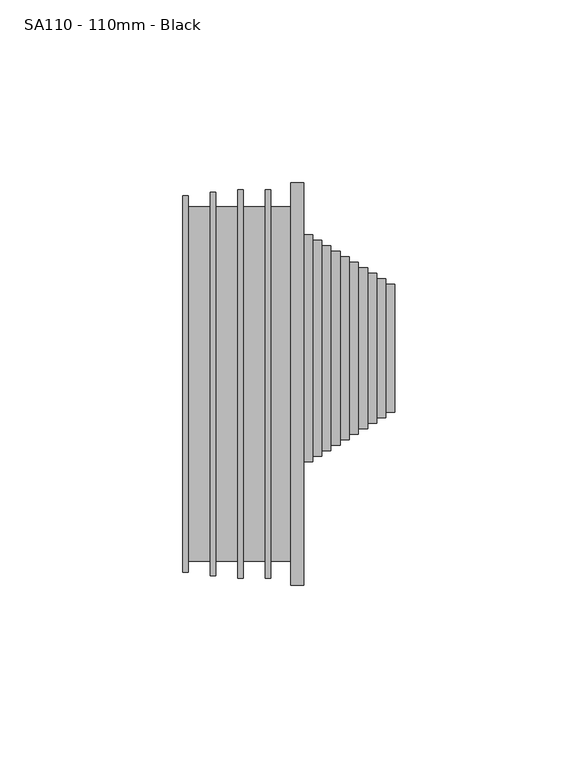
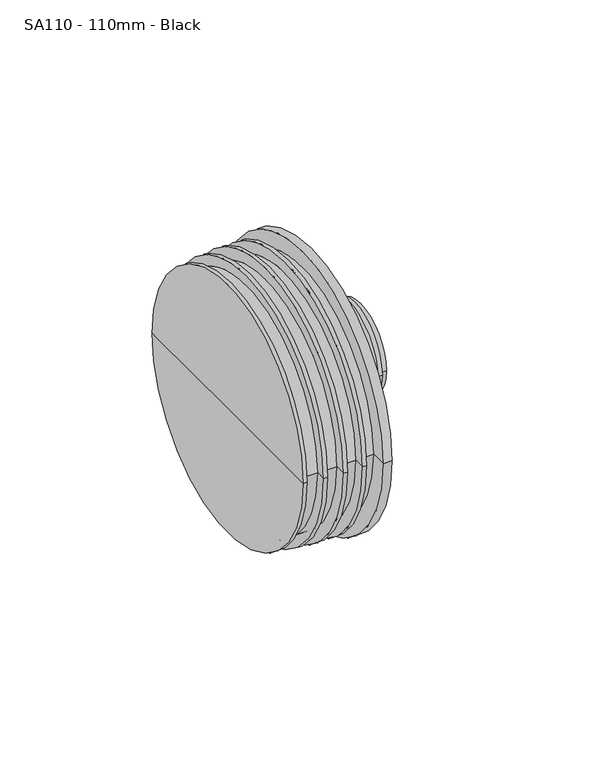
"""IFC4 building model written with IfcOpenShell, lengths in millimetres: pipe fitting geometry, MarleyPlumbingAndDrainage_PipeFitting_WasteDrainAdaptor : SA110 - 110mm - Black."""

from ifc_helpers import new_model, si_unit, frame, origin, place, context, project, spatial, circle_curve, source, transform, mapped, element, save
from ifc_brep_helpers import plane_surface, cylinder_surface, advanced_brep


def sa110_110mm_black_25943db1(model_context):
    return source(origin(), model_context, "Body", "AdvancedBrep", [
        advanced_brep(
        [(-44.3253818, 51.5, 0.0), (-44.3253818, -51.5, 0.0), (-44.3253818, -48.5, 0.0), (-44.3253818, 0.0, 0.0), (-44.3253818, 48.5, 0.0), (-20.3253818, -53.1, 0.0), (-20.3253818, 53.1, 0.0), (-20.3253818, 48.5, 0.0), (-20.3253818, -48.5, 0.0), (-21.8253818, -53.1, 0.0), (-21.8253818, 53.1, 0.0), (-21.8253818, -48.5, 0.0), (-21.8253818, 48.5, 0.0), (-27.8253818, -48.5, 0.0), (-27.8253818, 48.5, 0.0), (-27.8253818, -53.1, 0.0), (-27.8253818, 53.1, 0.0), (-29.3253818, -53.1, 0.0), (-29.3253818, 53.1, 0.0), (-29.3253818, -48.5, 0.0), (-29.3253818, 48.5, 0.0), (-35.3253818, -48.5, 0.0), (-35.3253818, 48.5, 0.0), (-35.3253818, -52.5, 0.0), (-35.3253818, 52.5, 0.0), (-36.8253818, -52.5, 0.0), (-36.8253818, 52.5, 0.0), (-36.8253818, -48.5, 0.0), (-36.8253818, 48.5, 0.0), (-42.8253818, -48.5, 0.0), (-42.8253818, 48.5, 0.0), (-42.8253818, -51.5, 0.0), (-42.8253818, 51.5, 0.0), (13.6746182, -7.75, 0.0), (13.6746182, 27.25, 0.0), (13.6746182, 9.75, 0.0), (11.1746182, -7.75, 0.0), (11.1746182, 27.25, 0.0), (11.1746182, -9.25, 0.0), (11.1746182, 28.75, 0.0), (8.6746182, -9.25, 0.0), (8.6746182, 28.75, 0.0), (8.6746182, -10.75, 0.0), (8.6746182, 30.25, 0.0), (6.1746182, -10.75, 0.0), (6.1746182, 30.25, 0.0), (6.1746182, -12.25, 0.0), (6.1746182, 31.75, 0.0), (3.6746182, -12.25, 0.0), (3.6746182, 31.75, 0.0), (3.6746182, -13.75, 0.0), (3.6746182, 33.25, 0.0), (1.1746182, -13.75, 0.0), (1.1746182, 33.25, 0.0), (1.1746182, -15.25, 0.0), (1.1746182, 34.75, 0.0), (-1.3253818, -15.25, 0.0), (-1.3253818, 34.75, 0.0), (-1.3253818, -16.75, 0.0), (-1.3253818, 36.25, 0.0), (-3.8253818, -16.75, 0.0), (-3.8253818, 36.25, 0.0), (-3.8253818, -18.25, 0.0), (-3.8253818, 37.75, 0.0), (-6.3253818, -18.25, 0.0), (-6.3253818, 37.75, 0.0), (-6.3253818, -19.79375, 0.0), (-6.3253818, 39.29375, 0.0), (-8.8253818, -19.79375, 0.0), (-8.8253818, 39.29375, 0.0), (-8.8253818, -21.25, 0.0), (-8.8253818, 40.75, 0.0), (-11.3253818, -21.25, 0.0), (-11.3253818, 40.75, 0.0), (-14.8253818, -55.0, 0.0), (-14.8253818, 55.0, 0.0), (-11.3253818, 55.0, 0.0), (-11.3253818, -55.0, 0.0), (-14.8253818, -48.5, 0.0), (-14.8253818, 48.5, 0.0)],
        [
            (0, 1, circle_curve(frame((-44.3253818, 0.0, 0.0), z_axis=(-1.0, 0.0, 0.0), x_axis=(0.0, 1.0, 0.0)), 51.5)),
            (1, 2),
            (2, 3),
            (3, 4),
            (4, 0),
            (1, 0, circle_curve(frame((-44.3253818, 0.0, 0.0), z_axis=(-1.0, 0.0, 0.0), x_axis=(0.0, 1.0, 0.0)), 51.5)),
            (5, 6, circle_curve(frame((-20.3253818, 0.0, 0.0), z_axis=(1.0, 0.0, 0.0), x_axis=(0.0, 1.0, 0.0)), 53.1)),
            (6, 7),
            (7, 8, circle_curve(frame((-20.3253818, 0.0, 0.0), z_axis=(-1.0, 0.0, 0.0), x_axis=(0.0, 1.0, 0.0)), 48.5)),
            (8, 5),
            (6, 5, circle_curve(frame((-20.3253818, 0.0, 0.0), z_axis=(1.0, 0.0, 0.0), x_axis=(0.0, 1.0, 0.0)), 53.1)),
            (8, 7, circle_curve(frame((-20.3253818, 0.0, 0.0), z_axis=(-1.0, 0.0, 0.0), x_axis=(0.0, 1.0, 0.0)), 48.5)),
            (5, 9),
            (9, 10, circle_curve(frame((-21.8253818, 0.0, 0.0), z_axis=(1.0, 0.0, 0.0), x_axis=(0.0, 1.0, 0.0)), 53.1)),
            (10, 6),
            (10, 9, circle_curve(frame((-21.8253818, 0.0, 0.0), z_axis=(1.0, 0.0, 0.0), x_axis=(0.0, 1.0, 0.0)), 53.1)),
            (9, 11),
            (11, 12, circle_curve(frame((-21.8253818, 0.0, 0.0), z_axis=(1.0, 0.0, 0.0), x_axis=(0.0, 1.0, 0.0)), 48.5)),
            (12, 10),
            (12, 11, circle_curve(frame((-21.8253818, 0.0, 0.0), z_axis=(1.0, 0.0, 0.0), x_axis=(0.0, 1.0, 0.0)), 48.5)),
            (11, 13),
            (13, 14, circle_curve(frame((-27.8253818, 0.0, 0.0), z_axis=(1.0, 0.0, 0.0), x_axis=(0.0, 1.0, 0.0)), 48.5)),
            (14, 12),
            (14, 13, circle_curve(frame((-27.8253818, 0.0, 0.0), z_axis=(1.0, 0.0, 0.0), x_axis=(0.0, 1.0, 0.0)), 48.5)),
            (13, 15),
            (15, 16, circle_curve(frame((-27.8253818, 0.0, 0.0), z_axis=(1.0, 0.0, 0.0), x_axis=(0.0, 1.0, 0.0)), 53.1)),
            (16, 14),
            (16, 15, circle_curve(frame((-27.8253818, 0.0, 0.0), z_axis=(1.0, 0.0, 0.0), x_axis=(0.0, 1.0, 0.0)), 53.1)),
            (15, 17),
            (17, 18, circle_curve(frame((-29.3253818, 0.0, 0.0), z_axis=(1.0, 0.0, 0.0), x_axis=(0.0, 1.0, 0.0)), 53.1)),
            (18, 16),
            (18, 17, circle_curve(frame((-29.3253818, 0.0, 0.0), z_axis=(1.0, 0.0, 0.0), x_axis=(0.0, 1.0, 0.0)), 53.1)),
            (17, 19),
            (19, 20, circle_curve(frame((-29.3253818, 0.0, 0.0), z_axis=(1.0, 0.0, 0.0), x_axis=(0.0, 1.0, 0.0)), 48.5)),
            (20, 18),
            (20, 19, circle_curve(frame((-29.3253818, 0.0, 0.0), z_axis=(1.0, 0.0, 0.0), x_axis=(0.0, 1.0, 0.0)), 48.5)),
            (19, 21),
            (21, 22, circle_curve(frame((-35.3253818, 0.0, 0.0), z_axis=(1.0, 0.0, 0.0), x_axis=(0.0, 1.0, 0.0)), 48.5)),
            (22, 20),
            (22, 21, circle_curve(frame((-35.3253818, 0.0, 0.0), z_axis=(1.0, 0.0, 0.0), x_axis=(0.0, 1.0, 0.0)), 48.5)),
            (21, 23),
            (23, 24, circle_curve(frame((-35.3253818, 0.0, 0.0), z_axis=(1.0, 0.0, 0.0), x_axis=(0.0, 1.0, 0.0)), 52.5)),
            (24, 22),
            (24, 23, circle_curve(frame((-35.3253818, 0.0, 0.0), z_axis=(1.0, 0.0, 0.0), x_axis=(0.0, 1.0, 0.0)), 52.5)),
            (23, 25),
            (25, 26, circle_curve(frame((-36.8253818, 0.0, 0.0), z_axis=(1.0, 0.0, 0.0), x_axis=(0.0, 1.0, 0.0)), 52.5)),
            (26, 24),
            (26, 25, circle_curve(frame((-36.8253818, 0.0, 0.0), z_axis=(1.0, 0.0, 0.0), x_axis=(0.0, 1.0, 0.0)), 52.5)),
            (25, 27),
            (27, 28, circle_curve(frame((-36.8253818, 0.0, 0.0), z_axis=(1.0, 0.0, 0.0), x_axis=(0.0, 1.0, 0.0)), 48.5)),
            (28, 26),
            (28, 27, circle_curve(frame((-36.8253818, 0.0, 0.0), z_axis=(1.0, 0.0, 0.0), x_axis=(0.0, 1.0, 0.0)), 48.5)),
            (27, 29),
            (29, 30, circle_curve(frame((-42.8253818, 0.0, 0.0), z_axis=(1.0, 0.0, 0.0), x_axis=(0.0, 1.0, 0.0)), 48.5)),
            (30, 28),
            (30, 29, circle_curve(frame((-42.8253818, 0.0, 0.0), z_axis=(1.0, 0.0, 0.0), x_axis=(0.0, 1.0, 0.0)), 48.5)),
            (29, 31),
            (31, 32, circle_curve(frame((-42.8253818, 0.0, 0.0), z_axis=(1.0, 0.0, 0.0), x_axis=(0.0, 1.0, 0.0)), 51.5)),
            (32, 30),
            (32, 31, circle_curve(frame((-42.8253818, 0.0, 0.0), z_axis=(1.0, 0.0, 0.0), x_axis=(0.0, 1.0, 0.0)), 51.5)),
            (0, 32),
            (31, 1),
            (33, 34, circle_curve(frame((13.6746182, 9.75, 0.0), z_axis=(1.0, 0.0, 0.0), x_axis=(0.0, 1.0, 0.0)), 17.5)),
            (34, 35),
            (35, 33),
            (34, 33, circle_curve(frame((13.6746182, 9.75, 0.0), z_axis=(1.0, 0.0, 0.0), x_axis=(0.0, 1.0, 0.0)), 17.5)),
            (33, 36),
            (36, 37, circle_curve(frame((11.1746182, 9.75, 0.0), z_axis=(1.0, 0.0, 0.0), x_axis=(0.0, 1.0, 0.0)), 17.5)),
            (37, 34),
            (37, 36, circle_curve(frame((11.1746182, 9.75, 0.0), z_axis=(1.0, 0.0, 0.0), x_axis=(0.0, 1.0, 0.0)), 17.5)),
            (36, 38),
            (38, 39, circle_curve(frame((11.1746182, 9.75, 0.0), z_axis=(1.0, 0.0, 0.0), x_axis=(0.0, 1.0, 0.0)), 19.0)),
            (39, 37),
            (39, 38, circle_curve(frame((11.1746182, 9.75, 0.0), z_axis=(1.0, 0.0, 0.0), x_axis=(0.0, 1.0, 0.0)), 19.0)),
            (38, 40),
            (40, 41, circle_curve(frame((8.6746182, 9.75, 0.0), z_axis=(1.0, 0.0, 0.0), x_axis=(0.0, 1.0, 0.0)), 19.0)),
            (41, 39),
            (41, 40, circle_curve(frame((8.6746182, 9.75, 0.0), z_axis=(1.0, 0.0, 0.0), x_axis=(0.0, 1.0, 0.0)), 19.0)),
            (40, 42),
            (42, 43, circle_curve(frame((8.6746182, 9.75, 0.0), z_axis=(1.0, 0.0, 0.0), x_axis=(0.0, 1.0, 0.0)), 20.5)),
            (43, 41),
            (43, 42, circle_curve(frame((8.6746182, 9.75, 0.0), z_axis=(1.0, 0.0, 0.0), x_axis=(0.0, 1.0, 0.0)), 20.5)),
            (42, 44),
            (44, 45, circle_curve(frame((6.1746182, 9.75, 0.0), z_axis=(1.0, 0.0, 0.0), x_axis=(0.0, 1.0, 0.0)), 20.5)),
            (45, 43),
            (45, 44, circle_curve(frame((6.1746182, 9.75, 0.0), z_axis=(1.0, 0.0, 0.0), x_axis=(0.0, 1.0, 0.0)), 20.5)),
            (44, 46),
            (46, 47, circle_curve(frame((6.1746182, 9.75, 0.0), z_axis=(1.0, 0.0, 0.0), x_axis=(0.0, 1.0, 0.0)), 22.0)),
            (47, 45),
            (47, 46, circle_curve(frame((6.1746182, 9.75, 0.0), z_axis=(1.0, 0.0, 0.0), x_axis=(0.0, 1.0, 0.0)), 22.0)),
            (46, 48),
            (48, 49, circle_curve(frame((3.6746182, 9.75, 0.0), z_axis=(1.0, 0.0, 0.0), x_axis=(0.0, 1.0, 0.0)), 22.0)),
            (49, 47),
            (49, 48, circle_curve(frame((3.6746182, 9.75, 0.0), z_axis=(1.0, 0.0, 0.0), x_axis=(0.0, 1.0, 0.0)), 22.0)),
            (48, 50),
            (50, 51, circle_curve(frame((3.6746182, 9.75, 0.0), z_axis=(1.0, 0.0, 0.0), x_axis=(0.0, 1.0, 0.0)), 23.5)),
            (51, 49),
            (51, 50, circle_curve(frame((3.6746182, 9.75, 0.0), z_axis=(1.0, 0.0, 0.0), x_axis=(0.0, 1.0, 0.0)), 23.5)),
            (50, 52),
            (52, 53, circle_curve(frame((1.1746182, 9.75, 0.0), z_axis=(1.0, 0.0, 0.0), x_axis=(0.0, 1.0, 0.0)), 23.5)),
            (53, 51),
            (53, 52, circle_curve(frame((1.1746182, 9.75, 0.0), z_axis=(1.0, 0.0, 0.0), x_axis=(0.0, 1.0, 0.0)), 23.5)),
            (52, 54),
            (54, 55, circle_curve(frame((1.1746182, 9.75, 0.0), z_axis=(1.0, 0.0, 0.0), x_axis=(0.0, 1.0, 0.0)), 25.0)),
            (55, 53),
            (55, 54, circle_curve(frame((1.1746182, 9.75, 0.0), z_axis=(1.0, 0.0, 0.0), x_axis=(0.0, 1.0, 0.0)), 25.0)),
            (54, 56),
            (56, 57, circle_curve(frame((-1.3253818, 9.75, 0.0), z_axis=(1.0, 0.0, 0.0), x_axis=(0.0, 1.0, 0.0)), 25.0)),
            (57, 55),
            (57, 56, circle_curve(frame((-1.3253818, 9.75, 0.0), z_axis=(1.0, 0.0, 0.0), x_axis=(0.0, 1.0, 0.0)), 25.0)),
            (56, 58),
            (58, 59, circle_curve(frame((-1.3253818, 9.75, 0.0), z_axis=(1.0, 0.0, 0.0), x_axis=(0.0, 1.0, 0.0)), 26.5)),
            (59, 57),
            (59, 58, circle_curve(frame((-1.3253818, 9.75, 0.0), z_axis=(1.0, 0.0, 0.0), x_axis=(0.0, 1.0, 0.0)), 26.5)),
            (58, 60),
            (60, 61, circle_curve(frame((-3.8253818, 9.75, 0.0), z_axis=(1.0, 0.0, 0.0), x_axis=(0.0, 1.0, 0.0)), 26.5)),
            (61, 59),
            (61, 60, circle_curve(frame((-3.8253818, 9.75, 0.0), z_axis=(1.0, 0.0, 0.0), x_axis=(0.0, 1.0, 0.0)), 26.5)),
            (60, 62),
            (62, 63, circle_curve(frame((-3.8253818, 9.75, 0.0), z_axis=(1.0, 0.0, 0.0), x_axis=(0.0, 1.0, 0.0)), 28.0)),
            (63, 61),
            (63, 62, circle_curve(frame((-3.8253818, 9.75, 0.0), z_axis=(1.0, 0.0, 0.0), x_axis=(0.0, 1.0, 0.0)), 28.0)),
            (62, 64),
            (64, 65, circle_curve(frame((-6.3253818, 9.75, 0.0), z_axis=(1.0, 0.0, 0.0), x_axis=(0.0, 1.0, 0.0)), 28.0)),
            (65, 63),
            (65, 64, circle_curve(frame((-6.3253818, 9.75, 0.0), z_axis=(1.0, 0.0, 0.0), x_axis=(0.0, 1.0, 0.0)), 28.0)),
            (64, 66),
            (66, 67, circle_curve(frame((-6.3253818, 9.75, 0.0), z_axis=(1.0, 0.0, 0.0), x_axis=(0.0, 1.0, 0.0)), 29.54375)),
            (67, 65),
            (67, 66, circle_curve(frame((-6.3253818, 9.75, 0.0), z_axis=(1.0, 0.0, 0.0), x_axis=(0.0, 1.0, 0.0)), 29.54375)),
            (66, 68),
            (68, 69, circle_curve(frame((-8.8253818, 9.75, 0.0), z_axis=(1.0, 0.0, 0.0), x_axis=(0.0, 1.0, 0.0)), 29.54375)),
            (69, 67),
            (69, 68, circle_curve(frame((-8.8253818, 9.75, 0.0), z_axis=(1.0, 0.0, 0.0), x_axis=(0.0, 1.0, 0.0)), 29.54375)),
            (68, 70),
            (70, 71, circle_curve(frame((-8.8253818, 9.75, 0.0), z_axis=(1.0, 0.0, 0.0), x_axis=(0.0, 1.0, 0.0)), 31.0)),
            (71, 69),
            (71, 70, circle_curve(frame((-8.8253818, 9.75, 0.0), z_axis=(1.0, 0.0, 0.0), x_axis=(0.0, 1.0, 0.0)), 31.0)),
            (70, 72),
            (72, 73, circle_curve(frame((-11.3253818, 9.75, 0.0), z_axis=(1.0, 0.0, 0.0), x_axis=(0.0, 1.0, 0.0)), 31.0)),
            (73, 71),
            (73, 72, circle_curve(frame((-11.3253818, 9.75, 0.0), z_axis=(1.0, 0.0, 0.0), x_axis=(0.0, 1.0, 0.0)), 31.0)),
            (74, 75, circle_curve(frame((-14.8253818, 0.0, 0.0), z_axis=(1.0, 0.0, 0.0), x_axis=(0.0, 1.0, 0.0)), 55.0)),
            (75, 76),
            (76, 77, circle_curve(frame((-11.3253818, 0.0, 0.0), z_axis=(-1.0, 0.0, 0.0), x_axis=(0.0, 1.0, 0.0)), 55.0)),
            (77, 74),
            (75, 74, circle_curve(frame((-14.8253818, 0.0, 0.0), z_axis=(1.0, 0.0, 0.0), x_axis=(0.0, 1.0, 0.0)), 55.0)),
            (77, 76, circle_curve(frame((-11.3253818, 0.0, 0.0), z_axis=(-1.0, 0.0, 0.0), x_axis=(0.0, 1.0, 0.0)), 55.0)),
            (74, 78),
            (78, 79, circle_curve(frame((-14.8253818, 0.0, 0.0), z_axis=(1.0, 0.0, 0.0), x_axis=(0.0, 1.0, 0.0)), 48.5)),
            (79, 75),
            (79, 78, circle_curve(frame((-14.8253818, 0.0, 0.0), z_axis=(1.0, 0.0, 0.0), x_axis=(0.0, 1.0, 0.0)), 48.5)),
            (76, 73),
            (72, 77),
            (7, 79),
            (78, 8),
        ],
        [
            plane_surface(frame((-44.3253818, 0.0, 0.0), z_axis=(-1.0, 0.0, 0.0), x_axis=(0.0, 1.0, 0.0))),
            plane_surface(frame((-20.3253818, 0.0, 0.0), z_axis=(1.0, 0.0, 0.0), x_axis=(0.0, 1.0, 0.0))),
            cylinder_surface(frame((2000.0, 0.0, 0.0), z_axis=(-1.0, 0.0, 0.0), x_axis=(0.0, 1.0, 0.0)), 53.1),
            plane_surface(frame((-21.8253818, 0.0, 0.0), z_axis=(-1.0, 0.0, 0.0), x_axis=(0.0, 1.0, 0.0))),
            cylinder_surface(frame((2000.0, 0.0, 0.0), z_axis=(-1.0, 0.0, 0.0), x_axis=(0.0, 1.0, 0.0)), 48.5),
            plane_surface(frame((-27.8253818, 0.0, 0.0), z_axis=(1.0, 0.0, 0.0), x_axis=(0.0, 1.0, 0.0))),
            plane_surface(frame((-29.3253818, 0.0, 0.0), z_axis=(-1.0, 0.0, 0.0), x_axis=(0.0, 1.0, 0.0))),
            plane_surface(frame((-35.3253818, 0.0, 0.0), z_axis=(1.0, 0.0, 0.0), x_axis=(0.0, 1.0, 0.0))),
            cylinder_surface(frame((2000.0, 0.0, 0.0), z_axis=(-1.0, 0.0, 0.0), x_axis=(0.0, 1.0, 0.0)), 52.5),
            plane_surface(frame((-36.8253818, 0.0, 0.0), z_axis=(-1.0, 0.0, 0.0), x_axis=(0.0, 1.0, 0.0))),
            plane_surface(frame((-42.8253818, 0.0, 0.0), z_axis=(1.0, 0.0, 0.0), x_axis=(0.0, 1.0, 0.0))),
            cylinder_surface(frame((2000.0, 0.0, 0.0), z_axis=(-1.0, 0.0, 0.0), x_axis=(0.0, 1.0, 0.0)), 51.5),
            plane_surface(frame((13.6746182, 9.75, 0.0), z_axis=(1.0, 0.0, 0.0), x_axis=(0.0, 1.0, 0.0))),
            cylinder_surface(frame((-159.3253818, 9.75, 0.0), z_axis=(-1.0, 0.0, 0.0), x_axis=(0.0, 1.0, 0.0)), 17.5),
            plane_surface(frame((11.1746182, 9.75, 0.0), z_axis=(1.0, 0.0, 0.0), x_axis=(0.0, 1.0, 0.0))),
            cylinder_surface(frame((-159.3253818, 9.75, 0.0), z_axis=(-1.0, 0.0, 0.0), x_axis=(0.0, 1.0, 0.0)), 19.0),
            plane_surface(frame((8.6746182, 9.75, 0.0), z_axis=(1.0, 0.0, 0.0), x_axis=(0.0, 1.0, 0.0))),
            cylinder_surface(frame((-159.3253818, 9.75, 0.0), z_axis=(-1.0, 0.0, 0.0), x_axis=(0.0, 1.0, 0.0)), 20.5),
            plane_surface(frame((6.1746182, 9.75, 0.0), z_axis=(1.0, 0.0, 0.0), x_axis=(0.0, 1.0, 0.0))),
            cylinder_surface(frame((-159.3253818, 9.75, 0.0), z_axis=(-1.0, 0.0, 0.0), x_axis=(0.0, 1.0, 0.0)), 22.0),
            plane_surface(frame((3.6746182, 9.75, 0.0), z_axis=(1.0, 0.0, 0.0), x_axis=(0.0, 1.0, 0.0))),
            cylinder_surface(frame((-159.3253818, 9.75, 0.0), z_axis=(-1.0, 0.0, 0.0), x_axis=(0.0, 1.0, 0.0)), 23.5),
            plane_surface(frame((1.1746182, 9.75, 0.0), z_axis=(1.0, 0.0, 0.0), x_axis=(0.0, 1.0, 0.0))),
            cylinder_surface(frame((-159.3253818, 9.75, 0.0), z_axis=(-1.0, 0.0, 0.0), x_axis=(0.0, 1.0, 0.0)), 25.0),
            plane_surface(frame((-1.3253818, 9.75, 0.0), z_axis=(1.0, 0.0, 0.0), x_axis=(0.0, 1.0, 0.0))),
            cylinder_surface(frame((-159.3253818, 9.75, 0.0), z_axis=(-1.0, 0.0, 0.0), x_axis=(0.0, 1.0, 0.0)), 26.5),
            plane_surface(frame((-3.8253818, 9.75, 0.0), z_axis=(1.0, 0.0, 0.0), x_axis=(0.0, 1.0, 0.0))),
            cylinder_surface(frame((-159.3253818, 9.75, 0.0), z_axis=(-1.0, 0.0, 0.0), x_axis=(0.0, 1.0, 0.0)), 28.0),
            plane_surface(frame((-6.3253818, 9.75, 0.0), z_axis=(1.0, 0.0, 0.0), x_axis=(0.0, 1.0, 0.0))),
            cylinder_surface(frame((-159.3253818, 9.75, 0.0), z_axis=(-1.0, 0.0, 0.0), x_axis=(0.0, 1.0, 0.0)), 29.54375),
            plane_surface(frame((-8.8253818, 9.75, 0.0), z_axis=(1.0, 0.0, 0.0), x_axis=(0.0, 1.0, 0.0))),
            cylinder_surface(frame((-159.3253818, 9.75, 0.0), z_axis=(-1.0, 0.0, 0.0), x_axis=(0.0, 1.0, 0.0)), 31.0),
            cylinder_surface(frame((2000.0, 0.0, 0.0), z_axis=(-1.0, 0.0, 0.0), x_axis=(0.0, 1.0, 0.0)), 55.0),
            plane_surface(frame((-14.8253818, 0.0, 0.0), z_axis=(-1.0, 0.0, 0.0), x_axis=(0.0, 1.0, 0.0))),
            plane_surface(frame((-11.3253818, 0.0, 0.0), z_axis=(1.0, 0.0, 0.0), x_axis=(0.0, 1.0, 0.0))),
        ],
        [
            (0, [[1, 2, 3, 4, 5]]),
            (0, [[6, -5, -4, -3, -2]]),
            (1, [[7, 8, 9, 10]]),
            (1, [[11, -10, 12, -8]]),
            (2, [[-7, 13, 14, 15]]),
            (2, [[-11, -15, 16, -13]]),
            (3, [[-14, 17, 18, 19]]),
            (3, [[-16, -19, 20, -17]]),
            (4, [[-18, 21, 22, 23]]),
            (4, [[-20, -23, 24, -21]]),
            (5, [[-22, 25, 26, 27]]),
            (5, [[-24, -27, 28, -25]]),
            (2, [[-26, 29, 30, 31]]),
            (2, [[-28, -31, 32, -29]]),
            (6, [[-30, 33, 34, 35]]),
            (6, [[-32, -35, 36, -33]]),
            (4, [[-34, 37, 38, 39]]),
            (4, [[-36, -39, 40, -37]]),
            (7, [[-38, 41, 42, 43]]),
            (7, [[-40, -43, 44, -41]]),
            (8, [[-42, 45, 46, 47]]),
            (8, [[-44, -47, 48, -45]]),
            (9, [[-46, 49, 50, 51]]),
            (9, [[-48, -51, 52, -49]]),
            (4, [[-50, 53, 54, 55]]),
            (4, [[-52, -55, 56, -53]]),
            (10, [[-54, 57, 58, 59]]),
            (10, [[-56, -59, 60, -57]]),
            (11, [[-1, 61, -58, 62]]),
            (11, [[-6, -62, -60, -61]]),
            (12, [[63, 64, 65]]),
            (12, [[-64, 66, -65]]),
            (13, [[-63, 67, 68, 69]]),
            (13, [[-66, -69, 70, -67]]),
            (14, [[-68, 71, 72, 73]]),
            (14, [[-70, -73, 74, -71]]),
            (15, [[-72, 75, 76, 77]]),
            (15, [[-74, -77, 78, -75]]),
            (16, [[-76, 79, 80, 81]]),
            (16, [[-78, -81, 82, -79]]),
            (17, [[-80, 83, 84, 85]]),
            (17, [[-82, -85, 86, -83]]),
            (18, [[-84, 87, 88, 89]]),
            (18, [[-86, -89, 90, -87]]),
            (19, [[-88, 91, 92, 93]]),
            (19, [[-90, -93, 94, -91]]),
            (20, [[-92, 95, 96, 97]]),
            (20, [[-94, -97, 98, -95]]),
            (21, [[-96, 99, 100, 101]]),
            (21, [[-98, -101, 102, -99]]),
            (22, [[-100, 103, 104, 105]]),
            (22, [[-102, -105, 106, -103]]),
            (23, [[-104, 107, 108, 109]]),
            (23, [[-106, -109, 110, -107]]),
            (24, [[-108, 111, 112, 113]]),
            (24, [[-110, -113, 114, -111]]),
            (25, [[-112, 115, 116, 117]]),
            (25, [[-114, -117, 118, -115]]),
            (26, [[-116, 119, 120, 121]]),
            (26, [[-118, -121, 122, -119]]),
            (27, [[-120, 123, 124, 125]]),
            (27, [[-122, -125, 126, -123]]),
            (28, [[-124, 127, 128, 129]]),
            (28, [[-126, -129, 130, -127]]),
            (29, [[-128, 131, 132, 133]]),
            (29, [[-130, -133, 134, -131]]),
            (30, [[-132, 135, 136, 137]]),
            (30, [[-134, -137, 138, -135]]),
            (31, [[-136, 139, 140, 141]]),
            (31, [[-138, -141, 142, -139]]),
            (32, [[143, 144, 145, 146]]),
            (32, [[-144, 147, -146, 148]]),
            (33, [[-143, 149, 150, 151]]),
            (33, [[-147, -151, 152, -149]]),
            (34, [[-145, 153, -140, 154]]),
            (34, [[-148, -154, -142, -153]]),
            (4, [[155, -150, 156, -9]]),
            (4, [[-155, -12, -156, -152]]),
        ],
    ),
    ])


if __name__ == "__main__":
    model = new_model("IFC4")
    model_context = context("Model", 3, world=origin())
    ifc_project = project(units=[si_unit("LENGTHUNIT", "METRE", prefix="MILLI")], contexts=[model_context])
    site = spatial("IfcSite", under=ifc_project)
    building = spatial("IfcBuilding", under=site)
    placement = place(None, origin())
    sa110_110mm_black_shape = sa110_110mm_black_25943db1(model_context)
    element("IfcPipeFitting", 1, ObjectType="MarleyPlumbingAndDrainage_PipeFitting_WasteDrainAdaptor : SA110 - 110mm - Black", at=placement, inside=building, context=model_context, shape_type="MappedRepresentation", body=[
        mapped(sa110_110mm_black_shape, transform((0.0, 0.0, 0.0), x_axis=(1.0, 0.0, 0.0), y_axis=(0.0, 1.0, 0.0), z_axis=(0.0, 0.0, 1.0))),
    ])
    save(model, "model.ifc")
